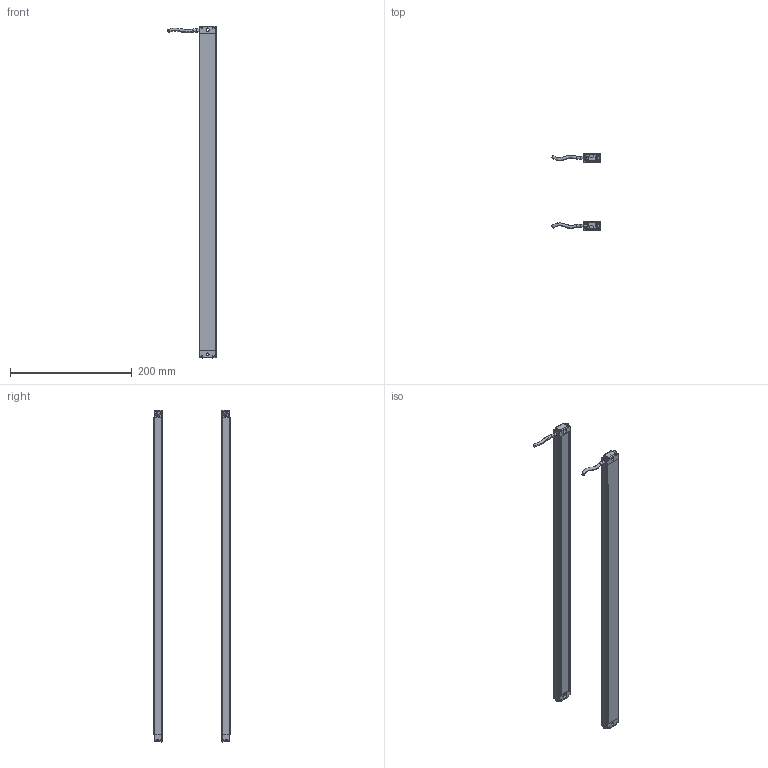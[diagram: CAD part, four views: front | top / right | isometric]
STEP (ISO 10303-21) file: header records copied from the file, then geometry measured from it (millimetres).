
FILE_DESCRIPTION(/* description */ (''),/* implementation_level */ '2;1');
FILE_NAME(/* name */ '9605（13x28w) .stp',/* time_stamp */ '2023-10-23T15:51:12+08:00',/* author */ (''),/* organization */ (''),/* preprocessor_version */ 'ST-DEVELOPER v16.7',/* originating_system */ 'SIEMENS PLM Software NX 12.0',/* authorisation */ '');
FILE_SCHEMA (('AP203_CONFIGURATION_CONTROLLED_3D_DESIGN_OF_MECHANICAL_PARTS_AND_ASSEMBLIES_MIM_LF { 1 0 10303 403 2 1 2}'));
Length unit declared in the file: millimetre
Products named in the file (1): 0805（13x28w_ _stp
Bounding box: 79.6 x 125.02 x 546 mm (x, y, z)
Volume: 160433 mm3; surface area: 212787.7 mm2
Topology: 10 solids, 10 shells, 760 faces, 2126 edges, 1395 vertices
Faces by surface type: plane 356, cylinder 312, torus 52, bspline 40
Entity records: 28292 total; most frequent: CARTESIAN_POINT 8883, ORIENTED_EDGE 4252, DIRECTION 3737, EDGE_CURVE 2126, VERTEX_POINT 1395, AXIS2_PLACEMENT_3D 1261, LINE 1215, VECTOR 1215
